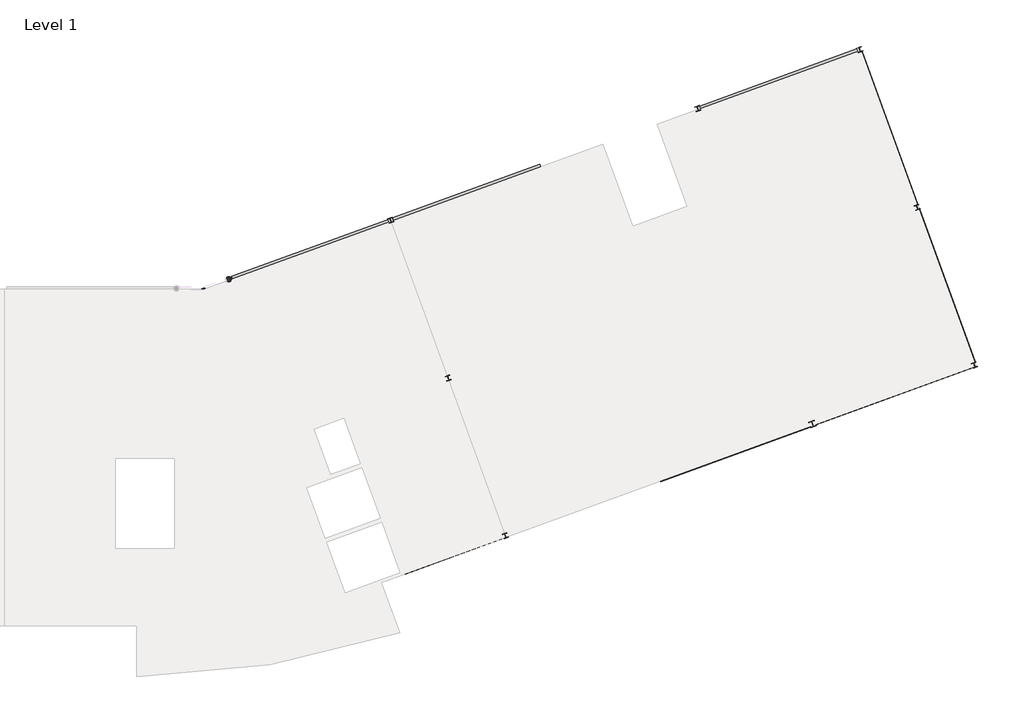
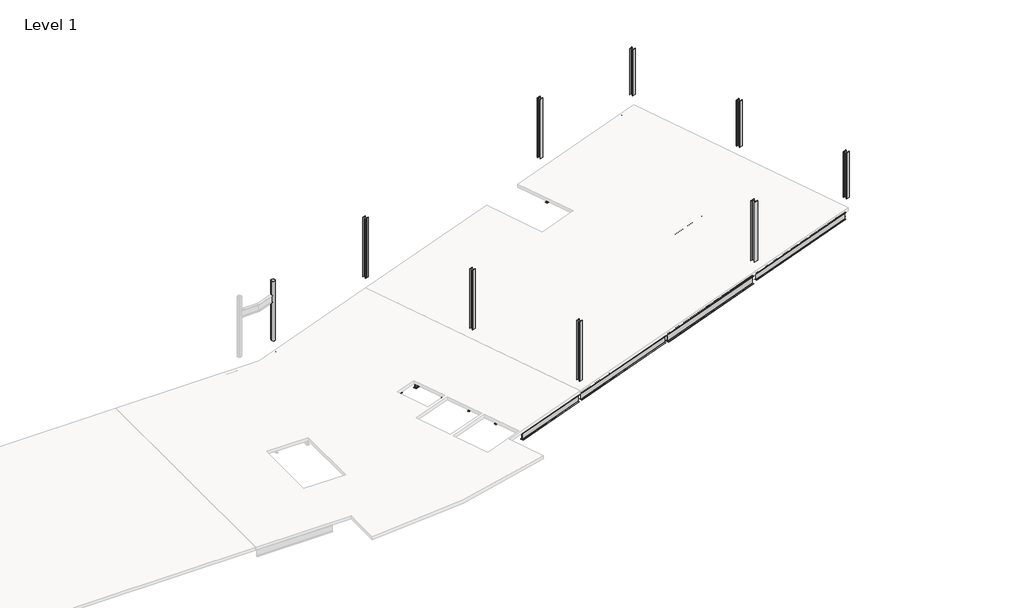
# One storey, part 2 of 2: 47 beams, 9 columns.
"""IFC4 building model written with IfcOpenShell, lengths in millimetres."""

from ifc_helpers import new_model, si_unit, origin, place, context, project, spatial, transform, mapped, element, save
from components import ub_universal_beams_ub305x127x37_f823aa85, ub_universal_beams_ub305x127x37_8d1efc97, ub_universal_beams_ub305x127x37_2b7a043a, ub_universal_beams_ub305x127x37_8d2b0bf5, ub_universal_beams_ub305x127x37_777f85ab, ub_universal_beams_ub305x127x37_16a75a32, ub_universal_beams_ub305x127x37_b9a7bbe5, ub_universal_beams_ub305x127x37_60794b88, ub_universal_beams_ub305x127x37_0c249d50, ub_universal_beams_ub457x152x67_2db27d90, ub_universal_beams_ub457x152x67_feb0265b, ub_universal_beams_ub457x152x67_801fcbf0, ub_universal_beams_ub457x152x67_c91190e6, ub_universal_beams_ub457x152x67_7192e0ee, ub_universal_beams_ub457x152x67_e0a47d06, ub_universal_beams_ub457x152x67_f5dc209c, ub_universal_beams_ub457x152x67_f862a4b8, ub_universal_beams_ub457x152x67_21f5ef47, ub_universal_beams_ub457x152x67_7b4bcd9a, ub_universal_beams_ub457x152x67_37de3949, ub_universal_beams_ub457x152x67_656765b2, ub_universal_beams_ub457x152x67_43212cfb, ub_universal_beams_ub533x210x82_8ec85ef7, ub_universal_beams_ub533x210x82_0fc11a2d, circular_hollow_sections_column_chs244_5x6_3_fd5da61b, uc_universal_columns_column_uc203x203x71_cef70da3, uc_universal_columns_column_uc203x203x71_7956e9f7, uc_universal_columns_column_uc254x254x132_e63b660d

model = new_model("IFC4")

# Units and contexts
model_context = context("Model", 3, world=origin())
ifc_project = project(units=[si_unit("LENGTHUNIT", "METRE", prefix="MILLI")], contexts=[model_context])

# Site, building, storey
site = spatial("IfcSite", under=ifc_project)
building = spatial("IfcBuilding", under=site)
storey = spatial("IfcBuildingStorey", under=building, Name="Level 1", Elevation=3695.0)

# Beams
placement = place(None, origin())
ub_universal_beams_ub305x127x37_shape = ub_universal_beams_ub305x127x37_f823aa85(model_context)
element("IfcBeam", 1, ObjectType="UB-Universal Beams : UB305x127x37", at=placement, inside=storey, context=model_context, shape_type="MappedRepresentation", body=[
    mapped(ub_universal_beams_ub305x127x37_shape, transform((39409.0148654, 14226.6858637, 3542.8), x_axis=(0.34202014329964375, -0.9396926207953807, 0.0), y_axis=(0.9396926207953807, 0.34202014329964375, 0.0), z_axis=(0.0, 0.0, 1.0))),
])
element("IfcBeam", 2, ObjectType="UB-Universal Beams : UB305x127x37", at=placement, inside=storey, context=model_context, shape_type="MappedRepresentation", body=[
    mapped(ub_universal_beams_ub305x127x37_shape, transform((37600.1065704, 13568.2970878, 3542.8), x_axis=(0.34202014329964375, -0.9396926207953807, 0.0), y_axis=(0.9396926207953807, 0.34202014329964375, 0.0), z_axis=(0.0, 0.0, 1.0))),
])
element("IfcBeam", 3, ObjectType="UB-Universal Beams : UB305x127x37", at=placement, inside=storey, context=model_context, shape_type="MappedRepresentation", body=[
    mapped(ub_universal_beams_ub305x127x37_shape, transform((42915.2429568, 15502.8485233, 3542.8), x_axis=(-0.3420201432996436, 0.9396926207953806, 0.0), y_axis=(-0.9396926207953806, -0.3420201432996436, 0.0), z_axis=(0.0, 0.0, 1.0))),
])
element("IfcBeam", 4, ObjectType="UB-Universal Beams : UB305x127x37", at=placement, inside=storey, context=model_context, shape_type="MappedRepresentation", body=[
    mapped(ub_universal_beams_ub305x127x37_shape, transform((44612.5627531, 16120.6224071, 3542.8), x_axis=(-0.34202014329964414, 0.9396926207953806, 0.0), y_axis=(-0.9396926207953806, -0.34202014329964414, 0.0), z_axis=(0.0, 0.0, 1.0))),
])
element("IfcBeam", 5, ObjectType="UB-Universal Beams : UB305x127x37", at=placement, inside=storey, context=model_context, shape_type="MappedRepresentation", body=[
    mapped(ub_universal_beams_ub305x127x37_shape, transform((46309.8825494, 16738.396291, 3542.8), x_axis=(-0.34202014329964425, 0.9396926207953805, 0.0), y_axis=(-0.9396926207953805, -0.34202014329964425, 0.0), z_axis=(0.0, 0.0, 1.0))),
])
ub_universal_beams_ub305x127x37_2_shape = ub_universal_beams_ub305x127x37_8d1efc97(model_context)
element("IfcBeam", 6, ObjectType="UB-Universal Beams : UB305x127x37", at=placement, inside=storey, context=model_context, shape_type="MappedRepresentation", body=[
    mapped(ub_universal_beams_ub305x127x37_2_shape, transform((35791.1982754, 12909.908312, 3542.8), x_axis=(0.3420201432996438, -0.9396926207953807, 0.0), y_axis=(0.9396926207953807, 0.3420201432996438, 0.0), z_axis=(0.0, 0.0, 1.0))),
])
ub_universal_beams_ub305x127x37_3_shape = ub_universal_beams_ub305x127x37_2b7a043a(model_context)
element("IfcBeam", 7, ObjectType="UB-Universal Beams : UB305x127x37", at=placement, inside=storey, context=model_context, shape_type="MappedRepresentation", body=[
    mapped(ub_universal_beams_ub305x127x37_3_shape, transform((42122.1150828, 5237.5069684, 3542.8), x_axis=(-0.939692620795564, -0.3420201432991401, 0.0), y_axis=(0.3420201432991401, -0.939692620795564, 0.0), z_axis=(0.0, 0.0, 1.0))),
])
element("IfcBeam", 8, ObjectType="UB-Universal Beams : UB305x127x37", at=placement, inside=storey, context=model_context, shape_type="MappedRepresentation", body=[
    mapped(ub_universal_beams_ub305x127x37_3_shape, transform((41480.8273141, 6999.4306323, 3542.8), x_axis=(-0.9396926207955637, -0.3420201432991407, 0.0), y_axis=(0.3420201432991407, -0.9396926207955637, 0.0), z_axis=(0.0, 0.0, 1.0))),
])
element("IfcBeam", 9, ObjectType="UB-Universal Beams : UB305x127x37", at=placement, inside=storey, context=model_context, shape_type="MappedRepresentation", body=[
    mapped(ub_universal_beams_ub305x127x37_3_shape, transform((40839.5395455, 8761.3542963, 3542.8), x_axis=(-0.939692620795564, -0.3420201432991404, 0.0), y_axis=(0.3420201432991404, -0.939692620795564, 0.0), z_axis=(0.0, 0.0, 1.0))),
])
ub_universal_beams_ub305x127x37_4_shape = ub_universal_beams_ub305x127x37_8d2b0bf5(model_context)
element("IfcBeam", 10, ObjectType="UB-Universal Beams : UB305x127x37", at=placement, inside=storey, context=model_context, shape_type="MappedRepresentation", body=[
    mapped(ub_universal_beams_ub305x127x37_4_shape, transform((46536.4260592, 10834.8514152, 3542.8), x_axis=(0.9396926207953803, 0.342020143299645, 0.0), y_axis=(-0.342020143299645, 0.9396926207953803, 0.0), z_axis=(0.0, 0.0, 1.0))),
])
element("IfcBeam", 11, ObjectType="UB-Universal Beams : UB305x127x37", at=placement, inside=storey, context=model_context, shape_type="MappedRepresentation", body=[
    mapped(ub_universal_beams_ub305x127x37_4_shape, transform((47177.7138279, 9072.9277512, 3542.8), x_axis=(0.9396926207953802, 0.34202014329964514, 0.0), y_axis=(-0.34202014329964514, 0.9396926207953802, 0.0), z_axis=(0.0, 0.0, 1.0))),
])
element("IfcBeam", 12, ObjectType="UB-Universal Beams : UB305x127x37", at=placement, inside=storey, context=model_context, shape_type="MappedRepresentation", body=[
    mapped(ub_universal_beams_ub305x127x37_4_shape, transform((47819.0015966, 7311.0040872, 3542.8), x_axis=(0.9396926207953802, 0.3420201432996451, 0.0), y_axis=(-0.3420201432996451, 0.9396926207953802, 0.0), z_axis=(0.0, 0.0, 1.0))),
])
ub_universal_beams_ub305x127x37_5_shape = ub_universal_beams_ub305x127x37_777f85ab(model_context)
element("IfcBeam", 13, ObjectType="UB-Universal Beams : UB305x127x37", at=placement, inside=storey, context=model_context, shape_type="MappedRepresentation", body=[
    mapped(ub_universal_beams_ub305x127x37_5_shape, transform((60479.1153202, 15909.5752914, 3542.8), x_axis=(0.9396926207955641, 0.34202014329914, 0.0), y_axis=(-0.34202014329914, 0.9396926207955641, 0.0), z_axis=(0.0, 0.0, 1.0))),
])
element("IfcBeam", 14, ObjectType="UB-Universal Beams : UB305x127x37", at=placement, inside=storey, context=model_context, shape_type="MappedRepresentation", body=[
    mapped(ub_universal_beams_ub305x127x37_5_shape, transform((61120.4030889, 14147.6516274, 3542.8), x_axis=(0.9396926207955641, 0.34202014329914, 0.0), y_axis=(-0.34202014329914, 0.9396926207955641, 0.0), z_axis=(0.0, 0.0, 1.0))),
])
element("IfcBeam", 15, ObjectType="UB-Universal Beams : UB305x127x37", at=placement, inside=storey, context=model_context, shape_type="MappedRepresentation", body=[
    mapped(ub_universal_beams_ub305x127x37_5_shape, transform((61761.6908576, 12385.7279634, 3542.8), x_axis=(0.9396926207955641, 0.3420201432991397, 0.0), y_axis=(-0.3420201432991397, 0.9396926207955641, 0.0), z_axis=(0.0, 0.0, 1.0))),
])
element("IfcBeam", 16, ObjectType="UB-Universal Beams : UB305x127x37", at=placement, inside=storey, context=model_context, shape_type="MappedRepresentation", body=[
    mapped(ub_universal_beams_ub305x127x37_5_shape, transform((57913.9642455, 22957.2699473, 3542.8), x_axis=(0.9396926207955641, 0.3420201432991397, 0.0), y_axis=(-0.3420201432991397, 0.9396926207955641, 0.0), z_axis=(0.0, 0.0, 1.0))),
])
element("IfcBeam", 17, ObjectType="UB-Universal Beams : UB305x127x37", at=placement, inside=storey, context=model_context, shape_type="MappedRepresentation", body=[
    mapped(ub_universal_beams_ub305x127x37_5_shape, transform((58555.2520142, 21195.3462833, 3542.8), x_axis=(0.9396926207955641, 0.3420201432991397, 0.0), y_axis=(-0.3420201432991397, 0.9396926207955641, 0.0), z_axis=(0.0, 0.0, 1.0))),
])
element("IfcBeam", 18, ObjectType="UB-Universal Beams : UB305x127x37", at=placement, inside=storey, context=model_context, shape_type="MappedRepresentation", body=[
    mapped(ub_universal_beams_ub305x127x37_5_shape, transform((59196.5397829, 19433.4226193, 3542.8), x_axis=(0.9396926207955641, 0.3420201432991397, 0.0), y_axis=(-0.3420201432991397, 0.9396926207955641, 0.0), z_axis=(0.0, 0.0, 1.0))),
])
ub_universal_beams_ub305x127x37_6_shape = ub_universal_beams_ub305x127x37_16a75a32(model_context)
element("IfcBeam", 19, ObjectType="UB-Universal Beams : UB305x127x37", at=placement, inside=storey, context=model_context, shape_type="MappedRepresentation", body=[
    mapped(ub_universal_beams_ub305x127x37_6_shape, transform((52185.7228693, 11321.365084, 3542.8), x_axis=(0.9396926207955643, 0.3420201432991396, 0.0), y_axis=(-0.3420201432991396, 0.9396926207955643, 0.0), z_axis=(0.0, 0.0, 1.0))),
])
element("IfcBeam", 20, ObjectType="UB-Universal Beams : UB305x127x37", at=placement, inside=storey, context=model_context, shape_type="MappedRepresentation", body=[
    mapped(ub_universal_beams_ub305x127x37_6_shape, transform((51681.2431579, 12707.4116997, 3542.8), x_axis=(0.9396926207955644, 0.34202014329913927, 0.0), y_axis=(-0.34202014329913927, 0.9396926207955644, 0.0), z_axis=(0.0, 0.0, 1.0))),
])
ub_universal_beams_ub305x127x37_7_shape = ub_universal_beams_ub305x127x37_b9a7bbe5(model_context)
element("IfcBeam", 21, ObjectType="UB-Universal Beams : UB305x127x37", at=placement, inside=storey, context=model_context, shape_type="MappedRepresentation", body=[
    mapped(ub_universal_beams_ub305x127x37_7_shape, transform((55650.8394085, 12582.5643624, 3542.8), x_axis=(0.939692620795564, 0.34202014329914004, 0.0), y_axis=(-0.34202014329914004, 0.939692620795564, 0.0), z_axis=(0.0, 0.0, 1.0))),
])
element("IfcBeam", 22, ObjectType="UB-Universal Beams : UB305x127x37", at=placement, inside=storey, context=model_context, shape_type="MappedRepresentation", body=[
    mapped(ub_universal_beams_ub305x127x37_7_shape, transform((56300.6776807, 10797.1483829, 3542.8), x_axis=(0.9396926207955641, 0.3420201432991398, 0.0), y_axis=(-0.3420201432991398, 0.9396926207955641, 0.0), z_axis=(0.0, 0.0, 1.0))),
])
element("IfcBeam", 23, ObjectType="UB-Universal Beams : UB305x127x37", at=placement, inside=storey, context=model_context, shape_type="MappedRepresentation", body=[
    mapped(ub_universal_beams_ub305x127x37_7_shape, transform((55146.3596971, 13968.6109781, 3542.8), x_axis=(0.9396926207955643, 0.34202014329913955, 0.0), y_axis=(-0.34202014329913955, 0.9396926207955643, 0.0), z_axis=(0.0, 0.0, 1.0))),
])
ub_universal_beams_ub305x127x37_8_shape = ub_universal_beams_ub305x127x37_60794b88(model_context)
element("IfcBeam", 24, ObjectType="UB-Universal Beams : UB305x127x37", at=placement, inside=storey, context=model_context, shape_type="MappedRepresentation", body=[
    mapped(ub_universal_beams_ub305x127x37_8_shape, transform((53431.3248942, 21325.7226526, 3542.8), x_axis=(-0.939692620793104, -0.34202014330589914, 0.0), y_axis=(0.34202014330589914, -0.939692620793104, 0.0), z_axis=(0.0, 0.0, 1.0))),
])
element("IfcBeam", 25, ObjectType="UB-Universal Beams : UB305x127x37", at=placement, inside=storey, context=model_context, shape_type="MappedRepresentation", body=[
    mapped(ub_universal_beams_ub305x127x37_8_shape, transform((54072.6126629, 19563.7989886, 3542.8), x_axis=(-0.939692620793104, -0.3420201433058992, 0.0), y_axis=(0.3420201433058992, -0.939692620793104, 0.0), z_axis=(0.0, 0.0, 1.0))),
])
element("IfcBeam", 26, ObjectType="UB-Universal Beams : UB305x127x37", at=placement, inside=storey, context=model_context, shape_type="MappedRepresentation", body=[
    mapped(ub_universal_beams_ub305x127x37_8_shape, transform((54713.9004316, 17801.8753247, 3542.8), x_axis=(-0.939692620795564, -0.34202014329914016, 0.0), y_axis=(0.34202014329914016, -0.939692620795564, 0.0), z_axis=(0.0, 0.0, 1.0))),
])
ub_universal_beams_ub305x127x37_9_shape = ub_universal_beams_ub305x127x37_0c249d50(model_context)
element("IfcBeam", 27, ObjectType="UB-Universal Beams : UB305x127x37", at=placement, inside=storey, context=model_context, shape_type="MappedRepresentation", body=[
    mapped(ub_universal_beams_ub305x127x37_9_shape, transform((52835.5611416, 9535.9491045, 3542.8), x_axis=(-0.9396926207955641, -0.34202014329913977, 0.0), y_axis=(0.34202014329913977, -0.9396926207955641, 0.0), z_axis=(0.0, 0.0, 1.0))),
])
ub_universal_beams_ub457x152x67_shape = ub_universal_beams_ub457x152x67_2db27d90(model_context)
element("IfcBeam", 28, ObjectType="UB-Universal Beams : UB457x152x67", at=placement, inside=storey, context=model_context, shape_type="MappedRepresentation", body=[
    mapped(ub_universal_beams_ub457x152x67_shape, transform((33982.2899804, 12251.5195361, 3466.0), x_axis=(0.3420201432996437, -0.9396926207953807, 0.0), y_axis=(0.9396926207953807, 0.3420201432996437, 0.0), z_axis=(0.0, 0.0, 1.0))),
])
ub_universal_beams_ub457x152x67_2_shape = ub_universal_beams_ub457x152x67_feb0265b(model_context)
element("IfcBeam", 29, ObjectType="UB-Universal Beams : UB457x152x67", at=placement, inside=storey, context=model_context, shape_type="MappedRepresentation", body=[
    mapped(ub_universal_beams_ub457x152x67_2_shape, transform((32191.7898055, 11821.5156209, 3466.0), x_axis=(0.173648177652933, -0.9848077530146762, 0.0), y_axis=(0.9848077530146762, 0.173648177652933, 0.0), z_axis=(0.0, 0.0, 1.0))),
])
ub_universal_beams_ub457x152x67_3_shape = ub_universal_beams_ub457x152x67_801fcbf0(model_context)
element("IfcBeam", 30, ObjectType="UB-Universal Beams : UB457x152x67", at=placement, inside=storey, context=model_context, shape_type="MappedRepresentation", body=[
    mapped(ub_universal_beams_ub457x152x67_3_shape, transform((33170.7103845, 11687.9849855, 3466.0), x_axis=(0.9396926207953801, 0.3420201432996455, 0.0), y_axis=(-0.3420201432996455, 0.9396926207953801, 0.0), z_axis=(0.0, 0.0, 1.0))),
])
ub_universal_beams_ub457x152x67_4_shape = ub_universal_beams_ub457x152x67_c91190e6(model_context)
element("IfcBeam", 31, ObjectType="UB-Universal Beams : UB457x152x67", at=placement, inside=storey, context=model_context, shape_type="MappedRepresentation", body=[
    mapped(ub_universal_beams_ub457x152x67_4_shape, transform((36317.5310328, 17092.1444158, 3466.0), x_axis=(0.9396926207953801, 0.3420201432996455, 0.0), y_axis=(-0.3420201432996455, 0.9396926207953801, 0.0), z_axis=(0.0, 0.0, 1.0))),
])
ub_universal_beams_ub457x152x67_5_shape = ub_universal_beams_ub457x152x67_7192e0ee(model_context)
element("IfcBeam", 32, ObjectType="UB-Universal Beams : UB457x152x67", at=placement, inside=storey, context=model_context, shape_type="MappedRepresentation", body=[
    mapped(ub_universal_beams_ub457x152x67_5_shape, transform((43329.9872158, 19644.4697351, 3466.0), x_axis=(0.9396926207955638, 0.3420201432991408, 0.0), y_axis=(-0.3420201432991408, 0.9396926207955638, 0.0), z_axis=(0.0, 0.0, 1.0))),
])
element("IfcBeam", 33, ObjectType="UB-Universal Beams : UB457x152x67", at=placement, inside=storey, context=model_context, shape_type="MappedRepresentation", body=[
    mapped(ub_universal_beams_ub457x152x67_5_shape, transform((45895.1382905, 12596.7750792, 3466.0), x_axis=(0.9396926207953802, 0.34202014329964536, 0.0), y_axis=(-0.34202014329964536, 0.9396926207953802, 0.0), z_axis=(0.0, 0.0, 1.0))),
])
element("IfcBeam", 34, ObjectType="UB-Universal Beams : UB457x152x67", at=placement, inside=storey, context=model_context, shape_type="MappedRepresentation", body=[
    mapped(ub_universal_beams_ub457x152x67_5_shape, transform((48460.2893652, 5549.0804232, 3466.0), x_axis=(0.9396926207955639, 0.3420201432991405, 0.0), y_axis=(-0.3420201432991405, 0.9396926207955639, 0.0), z_axis=(0.0, 0.0, 1.0))),
])
ub_universal_beams_ub457x152x67_6_shape = ub_universal_beams_ub457x152x67_e0a47d06(model_context)
element("IfcBeam", 35, ObjectType="UB-Universal Beams : UB457x152x67", at=placement, inside=storey, context=model_context, shape_type="MappedRepresentation", body=[
    mapped(ub_universal_beams_ub457x152x67_6_shape, transform((40198.2517768, 10523.2779603, 3466.0), x_axis=(0.9396926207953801, 0.34202014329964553, 0.0), y_axis=(-0.34202014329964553, 0.9396926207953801, 0.0), z_axis=(0.0, 0.0, 1.0))),
])
ub_universal_beams_ub457x152x67_7_shape = ub_universal_beams_ub457x152x67_f5dc209c(model_context)
element("IfcBeam", 36, ObjectType="UB-Universal Beams : UB457x152x67", at=placement, inside=storey, context=model_context, shape_type="MappedRepresentation", body=[
    mapped(ub_universal_beams_ub457x152x67_7_shape, transform((41217.9231605, 14885.0746394, 3466.0), x_axis=(-0.3420201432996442, 0.9396926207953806, 0.0), y_axis=(-0.9396926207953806, -0.3420201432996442, 0.0), z_axis=(0.0, 0.0, 1.0))),
])
element("IfcBeam", 37, ObjectType="UB-Universal Beams : UB457x152x67", at=placement, inside=storey, context=model_context, shape_type="MappedRepresentation", body=[
    mapped(ub_universal_beams_ub457x152x67_7_shape, transform((43783.0742352, 7837.3799835, 3466.0), x_axis=(-0.3420201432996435, 0.939692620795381, 0.0), y_axis=(-0.939692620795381, -0.3420201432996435, 0.0), z_axis=(0.0, 0.0, 1.0))),
])
element("IfcBeam", 38, ObjectType="UB-Universal Beams : UB457x152x67", at=placement, inside=storey, context=model_context, shape_type="MappedRepresentation", body=[
    mapped(ub_universal_beams_ub457x152x67_7_shape, transform((64738.219679, 15464.4291791, 3466.0), x_axis=(-0.34202014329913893, 0.9396926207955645, 0.0), y_axis=(-0.9396926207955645, -0.34202014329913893, 0.0), z_axis=(0.0, 0.0, 1.0))),
])
element("IfcBeam", 39, ObjectType="UB-Universal Beams : UB457x152x67", at=placement, inside=storey, context=model_context, shape_type="MappedRepresentation", body=[
    mapped(ub_universal_beams_ub457x152x67_7_shape, transform((62173.0686043, 22512.123835, 3466.0), x_axis=(-0.3420201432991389, 0.9396926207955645, 0.0), y_axis=(-0.9396926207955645, -0.3420201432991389, 0.0), z_axis=(0.0, 0.0, 1.0))),
])
ub_universal_beams_ub457x152x67_8_shape = ub_universal_beams_ub457x152x67_f862a4b8(model_context)
element("IfcBeam", 40, ObjectType="UB-Universal Beams : UB457x152x67", at=placement, inside=storey, context=model_context, shape_type="MappedRepresentation", body=[
    mapped(ub_universal_beams_ub457x152x67_8_shape, transform((42763.4028515, 3475.5833044, 3466.0), x_axis=(-0.9396926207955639, -0.34202014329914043, 0.0), y_axis=(0.34202014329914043, -0.9396926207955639, 0.0), z_axis=(0.0, 0.0, 1.0))),
])
ub_universal_beams_ub457x152x67_9_shape = ub_universal_beams_ub457x152x67_21f5ef47(model_context)
element("IfcBeam", 41, ObjectType="UB-Universal Beams : UB457x152x67", at=placement, inside=storey, context=model_context, shape_type="MappedRepresentation", body=[
    mapped(ub_universal_beams_ub457x152x67_9_shape, transform((57272.6764768, 24719.1936113, 3466.0), x_axis=(-0.9396926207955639, -0.3420201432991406, 0.0), y_axis=(0.3420201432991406, -0.9396926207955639, 0.0), z_axis=(0.0, 0.0, 1.0))),
])
ub_universal_beams_ub457x152x67_10_shape = ub_universal_beams_ub457x152x67_7b4bcd9a(model_context)
element("IfcBeam", 42, ObjectType="UB-Universal Beams : UB457x152x67", at=placement, inside=storey, context=model_context, shape_type="MappedRepresentation", body=[
    mapped(ub_universal_beams_ub457x152x67_10_shape, transform((54937.4354241, 19878.5687316, 3466.0), x_axis=(-0.3420201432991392, 0.9396926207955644, 0.0), y_axis=(-0.9396926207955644, -0.3420201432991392, 0.0), z_axis=(0.0, 0.0, 1.0))),
])
ub_universal_beams_ub457x152x67_11_shape = ub_universal_beams_ub457x152x67_37de3949(model_context)
element("IfcBeam", 43, ObjectType="UB-Universal Beams : UB457x152x67", at=placement, inside=storey, context=model_context, shape_type="MappedRepresentation", body=[
    mapped(ub_universal_beams_ub457x152x67_11_shape, transform((59849.5737093, 17675.7742072, 3466.0), x_axis=(0.9396926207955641, 0.3420201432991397, 0.0), y_axis=(-0.3420201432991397, 0.9396926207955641, 0.0), z_axis=(0.0, 0.0, 1.0))),
])
ub_universal_beams_ub457x152x67_12_shape = ub_universal_beams_ub457x152x67_656765b2(model_context)
element("IfcBeam", 44, ObjectType="UB-Universal Beams : UB457x152x67", at=placement, inside=storey, context=model_context, shape_type="MappedRepresentation", body=[
    mapped(ub_universal_beams_ub457x152x67_12_shape, transform((62402.9786263, 10623.8042994, 3466.0), x_axis=(0.9396926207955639, 0.34202014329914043, 0.0), y_axis=(-0.34202014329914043, 0.9396926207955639, 0.0), z_axis=(0.0, 0.0, 1.0))),
])
ub_universal_beams_ub457x152x67_13_shape = ub_universal_beams_ub457x152x67_43212cfb(model_context)
element("IfcBeam", 45, ObjectType="UB-Universal Beams : UB457x152x67", at=placement, inside=storey, context=model_context, shape_type="MappedRepresentation", body=[
    mapped(ub_universal_beams_ub457x152x67_13_shape, transform((57502.5864988, 12830.8740757, 3466.0), x_axis=(0.3420201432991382, -0.9396926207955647, 0.0), y_axis=(0.9396926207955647, 0.3420201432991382, 0.0), z_axis=(0.0, 0.0, 1.0))),
])
ub_universal_beams_ub533x210x82_shape = ub_universal_beams_ub533x210x82_8ec85ef7(model_context)
element("IfcBeam", 46, ObjectType="UB-Universal Beams : UB533x210x82", at=placement, inside=storey, context=model_context, shape_type="MappedRepresentation", body=[
    mapped(ub_universal_beams_ub533x210x82_shape, transform((54042.3541451, 11665.8982726, 3430.85), x_axis=(-0.34202014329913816, 0.9396926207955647, 0.0), y_axis=(-0.9396926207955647, -0.34202014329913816, 0.0), z_axis=(0.0, 0.0, 1.0))),
])
ub_universal_beams_ub533x210x82_2_shape = ub_universal_beams_ub533x210x82_0fc11a2d(model_context)
element("IfcBeam", 47, ObjectType="UB-Universal Beams : UB533x210x82", at=placement, inside=storey, context=model_context, shape_type="MappedRepresentation", body=[
    mapped(ub_universal_beams_ub533x210x82_2_shape, transform((55320.045497, 8045.8274693, 3430.85), x_axis=(0.9396926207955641, 0.3420201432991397, 0.0), y_axis=(-0.3420201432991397, 0.9396926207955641, 0.0), z_axis=(0.0, 0.0, 1.0))),
])

# Columns
circular_hollow_sections_column_chs244_5x6_3_shape = circular_hollow_sections_column_chs244_5x6_3_fd5da61b(model_context)
element("IfcColumn", 48, ObjectType="Circular Hollow Sections-Column : CHS244.5x6.3", at=placement, inside=storey, context=model_context, shape_type="MappedRepresentation", body=[
    mapped(circular_hollow_sections_column_chs244_5x6_3_shape, transform((32699.714443, 15775.3668642, 0.0), x_axis=(1.0, 0.0, 0.0), y_axis=(0.0, 1.0, 0.0), z_axis=(0.0, 0.0, 1.0))),
])
uc_universal_columns_column_uc203x203x71_shape = uc_universal_columns_column_uc203x203x71_cef70da3(model_context)
element("IfcColumn", 49, ObjectType="UC-Universal Columns-Column : UC203x203x71", at=placement, inside=storey, context=model_context, shape_type="MappedRepresentation", body=[
    mapped(uc_universal_columns_column_uc203x203x71_shape, transform((42500.4986978, 11361.2273115, 0.0), x_axis=(0.9396926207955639, 0.3420201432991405, 0.0), y_axis=(-0.3420201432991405, 0.9396926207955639, 0.0), z_axis=(0.0, 0.0, 1.0))),
])
element("IfcColumn", 50, ObjectType="UC-Universal Columns-Column : UC203x203x71", at=placement, inside=storey, context=model_context, shape_type="MappedRepresentation", body=[
    mapped(uc_universal_columns_column_uc203x203x71_shape, transform((39935.3476231, 18408.9219674, 0.0), x_axis=(0.9396926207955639, 0.3420201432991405, 0.0), y_axis=(-0.3420201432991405, 0.9396926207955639, 0.0), z_axis=(0.0, 0.0, 1.0))),
])
element("IfcColumn", 51, ObjectType="UC-Universal Columns-Column : UC203x203x71", at=placement, inside=storey, context=model_context, shape_type="MappedRepresentation", body=[
    mapped(uc_universal_columns_column_uc203x203x71_shape, transform((53654.8598867, 23402.4160596, 0.0), x_axis=(0.9396926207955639, 0.3420201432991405, 0.0), y_axis=(-0.3420201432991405, 0.9396926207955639, 0.0), z_axis=(0.0, 0.0, 1.0))),
])
element("IfcColumn", 52, ObjectType="UC-Universal Columns-Column : UC203x203x71", at=placement, inside=storey, context=model_context, shape_type="MappedRepresentation", body=[
    mapped(uc_universal_columns_column_uc203x203x71_shape, transform((45065.6497726, 4313.5326555, 0.0), x_axis=(0.939692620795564, 0.3420201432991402, 0.0), y_axis=(-0.3420201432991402, 0.939692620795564, 0.0), z_axis=(0.0, 0.0, 1.0))),
])
uc_universal_columns_column_uc203x203x71_2_shape = uc_universal_columns_column_uc203x203x71_7956e9f7(model_context)
element("IfcColumn", 53, ObjectType="UC-Universal Columns-Column : UC203x203x71", at=placement, inside=storey, context=model_context, shape_type="MappedRepresentation", body=[
    mapped(uc_universal_columns_column_uc203x203x71_2_shape, transform((60890.4930669, 26035.971163, 0.0), x_axis=(0.9396926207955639, 0.3420201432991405, 0.0), y_axis=(-0.3420201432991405, 0.9396926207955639, 0.0), z_axis=(0.0, 0.0, 1.0))),
])
element("IfcColumn", 54, ObjectType="UC-Universal Columns-Column : UC203x203x71", at=placement, inside=storey, context=model_context, shape_type="MappedRepresentation", body=[
    mapped(uc_universal_columns_column_uc203x203x71_2_shape, transform((63455.6441416, 18988.2765071, 0.0), x_axis=(0.9396926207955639, 0.3420201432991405, 0.0), y_axis=(-0.3420201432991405, 0.9396926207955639, 0.0), z_axis=(0.0, 0.0, 1.0))),
])
element("IfcColumn", 55, ObjectType="UC-Universal Columns-Column : UC203x203x71", at=placement, inside=storey, context=model_context, shape_type="MappedRepresentation", body=[
    mapped(uc_universal_columns_column_uc203x203x71_2_shape, transform((66020.7952164, 11940.5818511, 0.0), x_axis=(0.9396926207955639, 0.3420201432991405, 0.0), y_axis=(-0.3420201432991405, 0.9396926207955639, 0.0), z_axis=(0.0, 0.0, 1.0))),
])
uc_universal_columns_column_uc254x254x132_shape = uc_universal_columns_column_uc254x254x132_e63b660d(model_context)
element("IfcColumn", 56, ObjectType="UC-Universal Columns-Column : UC254x254x132", at=placement, inside=storey, context=model_context, shape_type="MappedRepresentation", body=[
    mapped(uc_universal_columns_column_uc254x254x132_shape, transform((58785.1620362, 9307.0267477, 0.0), x_axis=(0.9396926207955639, 0.3420201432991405, 0.0), y_axis=(-0.3420201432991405, 0.9396926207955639, 0.0), z_axis=(0.0, 0.0, 1.0))),
])

save(model, "model.ifc")
